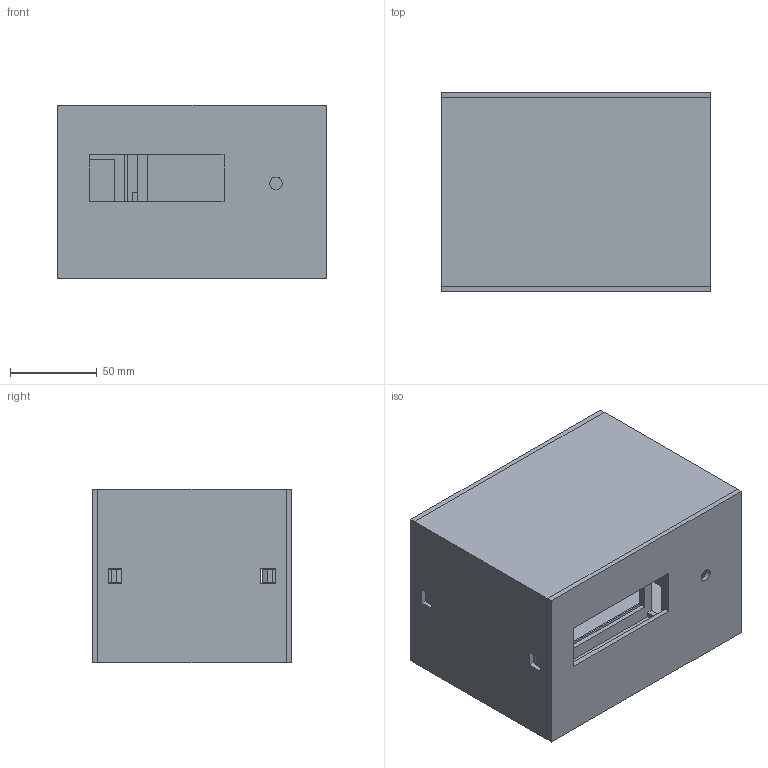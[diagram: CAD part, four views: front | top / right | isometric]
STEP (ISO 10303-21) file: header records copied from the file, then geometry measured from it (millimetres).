
FILE_DESCRIPTION(('Open CASCADE Model'),'2;1');
FILE_NAME('Open CASCADE Shape Model','2026-11-05T11:13:35',('Author'),( 'Open CASCADE'),'Open CASCADE STEP processor 7.8','Open CASCADE 7.8' ,'Unknown');
FILE_SCHEMA(('AUTOMOTIVE_DESIGN { 1 0 10303 214 1 1 1 1 }'));
Length unit declared in the file: millimetre
Products named in the file (6): Boitier_5_pieces_a_imprimer; 05_Berceau_XL4015; 01_Coque_ouverte; 02_Facade_supports_LCD_A; 03_Berceau_B; 04_Panneau_arriere
Assembly tree (5 placements, depth 2):
  Boitier_5_pieces_a_imprimer
    05_Berceau_XL4015
    01_Coque_ouverte
    02_Facade_supports_LCD_A
    03_Berceau_B
    04_Panneau_arriere
Bounding box: 155 x 115 x 100 mm (x, y, z)
Volume: 298820.2 mm3; surface area: 231144.7 mm2
Topology: 5 solids, 5 shells, 463 faces, 1327 edges, 882 vertices
Faces by surface type: plane 458, cylinder 5
Full cylindrical faces by diameter (mm): 7.2 x1, 12.4 x1, 12.5 x2, 16 x1
Entity records: 31431 total; most frequent: CARTESIAN_POINT 6218, DIRECTION 4043, LINE 3075, VECTOR 3075, ORIENTED_EDGE 2654, PCURVE 2654, DEFINITIONAL_REPRESENTATION 2654, EDGE_CURVE 1327
